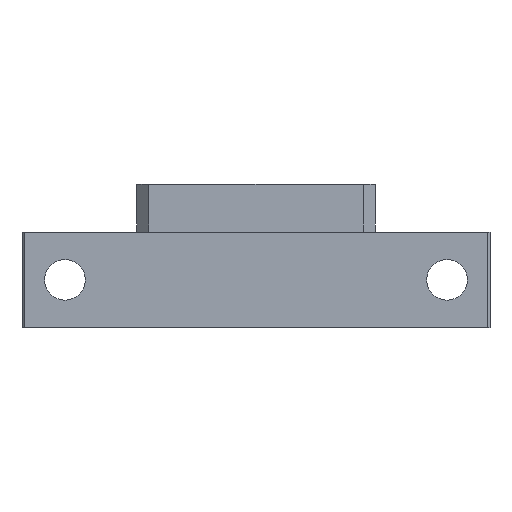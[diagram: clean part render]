
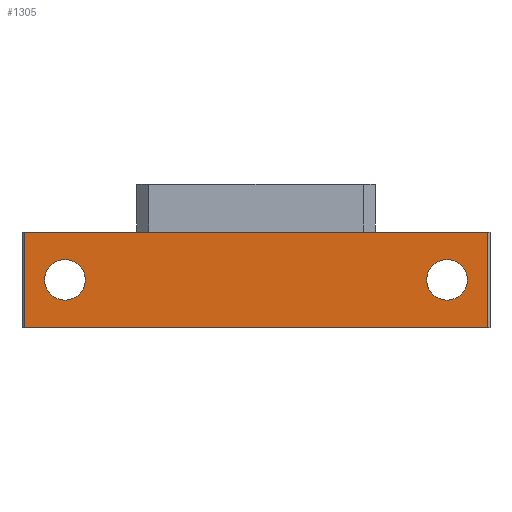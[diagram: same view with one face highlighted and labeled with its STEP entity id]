
A CAD part, front view. The second image highlights one B-rep face of the part: STEP entity #1305.
In plain terms, the highlighted planar face has unit normal (0, -1, 0).
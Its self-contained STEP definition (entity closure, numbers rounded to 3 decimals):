
#53 = DIRECTION ( 'NONE',  ( 1., 0., 0. ) ) ;
#132 = ORIENTED_EDGE ( 'NONE', *, *, #3761, .T. ) ;
#169 = VERTEX_POINT ( 'NONE', #2193 ) ;
#191 = FACE_BOUND ( 'NONE', #659, .T. ) ;
#337 = DIRECTION ( 'NONE',  ( 0., 0., -1. ) ) ;
#385 = EDGE_CURVE ( 'NONE', #1048, #3487, #1039, .T. ) ;
#590 = VERTEX_POINT ( 'NONE', #5050 ) ;
#656 = CARTESIAN_POINT ( 'NONE',  ( -48.5, -31., 20. ) ) ;
#659 = EDGE_LOOP ( 'NONE', ( #4347, #2312 ) ) ;
#684 = VECTOR ( 'NONE', #3381, 1000. ) ;
#749 = CARTESIAN_POINT ( 'NONE',  ( -48.5, -31., 0. ) ) ;
#758 = DIRECTION ( 'NONE',  ( 0., 1., 0. ) ) ;
#788 = VERTEX_POINT ( 'NONE', #4185 ) ;
#883 = EDGE_LOOP ( 'NONE', ( #1746, #4565 ) ) ;
#1039 = LINE ( 'NONE', #4549, #684 ) ;
#1048 = VERTEX_POINT ( 'NONE', #656 ) ;
#1209 = CIRCLE ( 'NONE', #4126, 4.25 ) ;
#1273 = DIRECTION ( 'NONE',  ( 0., 0., 1. ) ) ;
#1279 = DIRECTION ( 'NONE',  ( 0., 1., 0. ) ) ;
#1305 = ADVANCED_FACE ( 'NONE', ( #191, #1779, #3372 ), #4955, .F. ) ;
#1360 = LINE ( 'NONE', #4568, #3032 ) ;
#1387 = CARTESIAN_POINT ( 'NONE',  ( -48.5, -31., 20. ) ) ;
#1576 = EDGE_CURVE ( 'NONE', #4506, #1742, #3233, .T. ) ;
#1600 = CARTESIAN_POINT ( 'NONE',  ( -48.5, -31., 0. ) ) ;
#1742 = VERTEX_POINT ( 'NONE', #3770 ) ;
#1746 = ORIENTED_EDGE ( 'NONE', *, *, #1576, .T. ) ;
#1779 = FACE_BOUND ( 'NONE', #883, .T. ) ;
#1873 = VECTOR ( 'NONE', #337, 1000. ) ;
#1994 = CARTESIAN_POINT ( 'NONE',  ( -40., -31., 10. ) ) ;
#2101 = CARTESIAN_POINT ( 'NONE',  ( 48.5, -31., 20. ) ) ;
#2193 = CARTESIAN_POINT ( 'NONE',  ( -40., -31., 14.25 ) ) ;
#2260 = ORIENTED_EDGE ( 'NONE', *, *, #2536, .F. ) ;
#2312 = ORIENTED_EDGE ( 'NONE', *, *, #3705, .F. ) ;
#2345 = DIRECTION ( 'NONE',  ( 0., 0., 1. ) ) ;
#2357 = VERTEX_POINT ( 'NONE', #1600 ) ;
#2447 = CARTESIAN_POINT ( 'NONE',  ( 40., -31., 10. ) ) ;
#2536 = EDGE_CURVE ( 'NONE', #3487, #788, #1360, .T. ) ;
#2700 = DIRECTION ( 'NONE',  ( 0., 0., 1. ) ) ;
#2735 = CARTESIAN_POINT ( 'NONE',  ( 40., -31., 14.25 ) ) ;
#2780 = CARTESIAN_POINT ( 'NONE',  ( -48.5, -31., 20. ) ) ;
#2802 = ORIENTED_EDGE ( 'NONE', *, *, #385, .F. ) ;
#2872 = DIRECTION ( 'NONE',  ( 0., 0., 1. ) ) ;
#2895 = DIRECTION ( 'NONE',  ( 0., 0., -1. ) ) ;
#3010 = CIRCLE ( 'NONE', #3265, 4.25 ) ;
#3032 = VECTOR ( 'NONE', #2895, 1000. ) ;
#3086 = CARTESIAN_POINT ( 'NONE',  ( -40., -31., 10. ) ) ;
#3138 = DIRECTION ( 'NONE',  ( 0., 0., 1. ) ) ;
#3233 = CIRCLE ( 'NONE', #3568, 4.25 ) ;
#3256 = CARTESIAN_POINT ( 'NONE',  ( 40., -31., 10. ) ) ;
#3265 = AXIS2_PLACEMENT_3D ( 'NONE', #2447, #758, #2345 ) ;
#3290 = CIRCLE ( 'NONE', #3873, 4.25 ) ;
#3372 = FACE_OUTER_BOUND ( 'NONE', #4980, .T. ) ;
#3381 = DIRECTION ( 'NONE',  ( 1., 0., 0. ) ) ;
#3487 = VERTEX_POINT ( 'NONE', #2101 ) ;
#3500 = ORIENTED_EDGE ( 'NONE', *, *, #4315, .T. ) ;
#3568 = AXIS2_PLACEMENT_3D ( 'NONE', #3256, #4843, #1273 ) ;
#3616 = LINE ( 'NONE', #749, #4841 ) ;
#3705 = EDGE_CURVE ( 'NONE', #590, #169, #3290, .T. ) ;
#3758 = EDGE_CURVE ( 'NONE', #169, #590, #1209, .T. ) ;
#3761 = EDGE_CURVE ( 'NONE', #1048, #2357, #3901, .T. ) ;
#3770 = CARTESIAN_POINT ( 'NONE',  ( 40., -31., 5.75 ) ) ;
#3873 = AXIS2_PLACEMENT_3D ( 'NONE', #1994, #4787, #3138 ) ;
#3901 = LINE ( 'NONE', #2780, #1873 ) ;
#4126 = AXIS2_PLACEMENT_3D ( 'NONE', #3086, #4707, #2700 ) ;
#4185 = CARTESIAN_POINT ( 'NONE',  ( 48.5, -31., 0. ) ) ;
#4312 = AXIS2_PLACEMENT_3D ( 'NONE', #1387, #1279, #2872 ) ;
#4315 = EDGE_CURVE ( 'NONE', #2357, #788, #3616, .T. ) ;
#4347 = ORIENTED_EDGE ( 'NONE', *, *, #3758, .F. ) ;
#4506 = VERTEX_POINT ( 'NONE', #2735 ) ;
#4528 = EDGE_CURVE ( 'NONE', #1742, #4506, #3010, .T. ) ;
#4549 = CARTESIAN_POINT ( 'NONE',  ( -48.5, -31., 20. ) ) ;
#4565 = ORIENTED_EDGE ( 'NONE', *, *, #4528, .T. ) ;
#4568 = CARTESIAN_POINT ( 'NONE',  ( 48.5, -31., 20. ) ) ;
#4707 = DIRECTION ( 'NONE',  ( 0., -1., 0. ) ) ;
#4787 = DIRECTION ( 'NONE',  ( 0., -1., 0. ) ) ;
#4841 = VECTOR ( 'NONE', #53, 1000. ) ;
#4843 = DIRECTION ( 'NONE',  ( 0., 1., 0. ) ) ;
#4955 = PLANE ( 'NONE',  #4312 ) ;
#4980 = EDGE_LOOP ( 'NONE', ( #3500, #2260, #2802, #132 ) ) ;
#5050 = CARTESIAN_POINT ( 'NONE',  ( -40., -31., 5.75 ) ) ;
